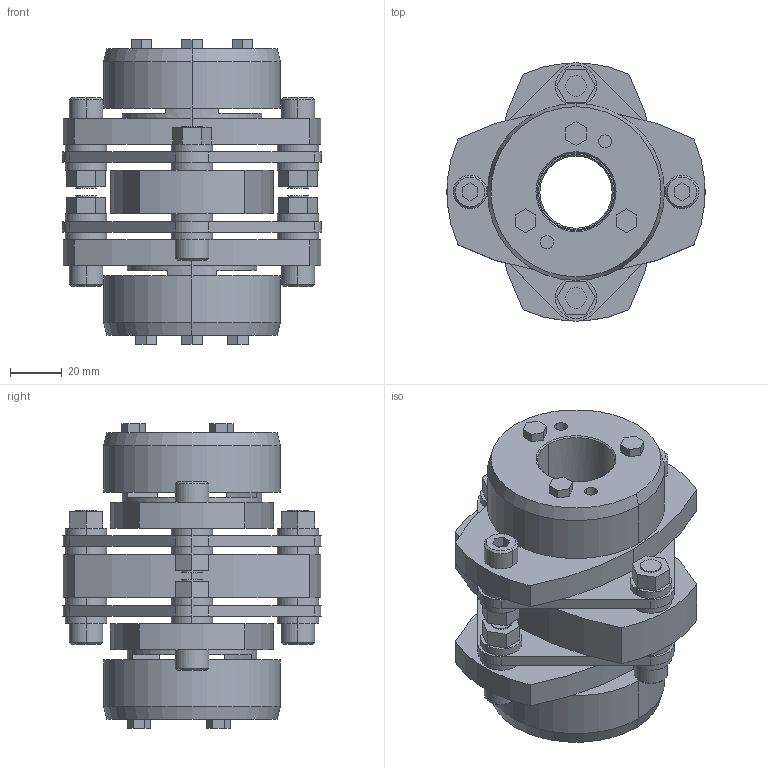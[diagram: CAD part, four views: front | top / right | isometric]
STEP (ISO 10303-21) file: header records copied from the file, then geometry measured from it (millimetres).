
FILE_DESCRIPTION((''),'2;1');
FILE_NAME('LCD-100T7-28×30.stp','2015-11-02T07:31:57',(''),(''),'AutoCAD STEP 2000i','AutoCAD 2000i',', , ');
FILE_SCHEMA(('CONFIG_CONTROL_DESIGN'));
Length unit declared in the file: millimetre
Products named in the file (9): LCD-100T7-28×30; 忣兜1; LC100T7-T028; LC100T7-T030; LC100T7-T025-1; LC100T7-T025; LC100T7-T022-1; LC100T7-T022; LCD100-ITA
Assembly tree (8 placements, depth 2):
  LCD-100T7-28×30
    忣兜1
    LC100T7-T028
    LC100T7-T030
    LC100T7-T025-1
    LC100T7-T025
    LC100T7-T022-1
    LC100T7-T022
    LCD100-ITA
Bounding box: 100 x 99.93 x 118 mm (x, y, z)
Volume: 363643.1 mm3; surface area: 91501.7 mm2
Topology: 1 solids, 1 shells, 320 faces, 780 edges, 512 vertices
Faces by surface type: plane 176, cylinder 120, cone 24
Entity records: 9691 total; most frequent: DIRECTION 1718, CARTESIAN_POINT 1621, ORIENTED_EDGE 1560, EDGE_CURVE 780, AXIS2_PLACEMENT_3D 609, VERTEX_POINT 512, VECTOR 500, LINE 500
